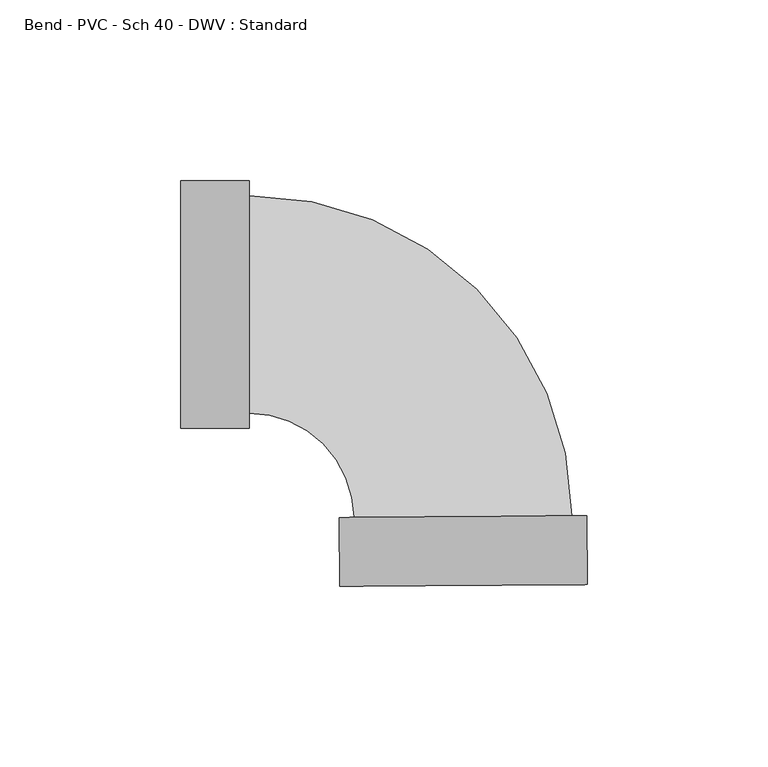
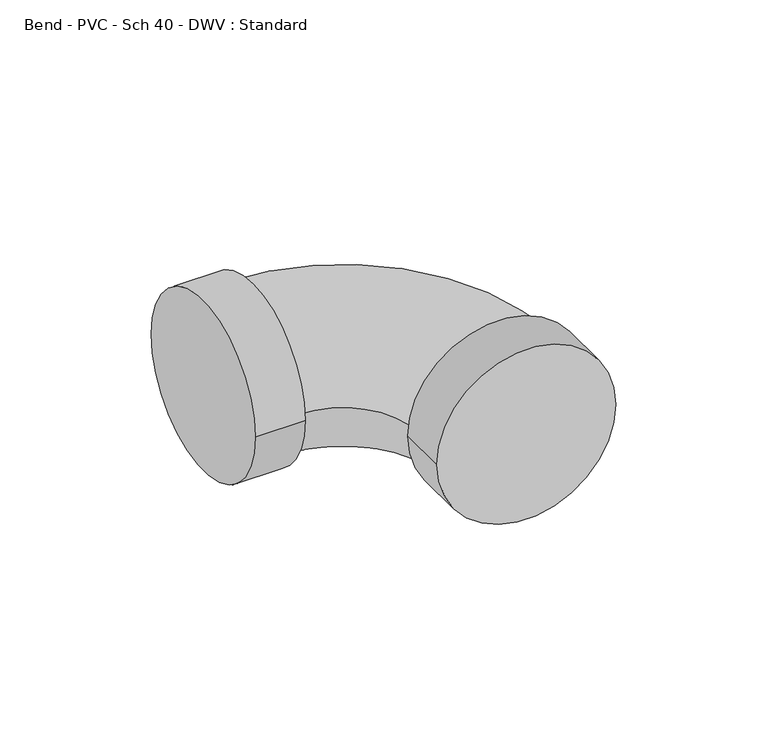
"""IFC4 building model written with IfcOpenShell, lengths in millimetres: pipe fitting geometry, Bend - PVC - Sch 40 - DWV : Standard."""

import ifcopenshell
import ifcopenshell.guid

model = None  # the IFC model being written
_history = None  # IfcOwnerHistory: only IFC2X3 demands one
_inside = {}  # id of a spatial element -> (the spatial element, [elements in it])
_under = {}  # id of a project, library or spatial element -> (it, [spatial elements below it])
_declared = {}  # id of a project -> (the project, [libraries it declares])
_typed = {}  # id of a type object -> (the type object, [elements of that type])
_made_of = {}  # id of a material, layer set ... -> (it, [elements and type objects made of it])


def new_model(schema):
    """Start an empty IFC model of exactly this schema.

    Asked for "IFC4X3", IfcOpenShell would pick the latest addendum, in which some entities
    have other attributes; the version numbers below select the first issue.
    IFC2X3 requires an IfcOwnerHistory on every rooted entity: one is made here for all.
    """
    global model, _history
    if schema == "IFC4X3":
        model = ifcopenshell.file(schema_version=(4, 3, 0, 0))
    else:
        model = ifcopenshell.file(schema=schema)
    _inside.clear()
    _under.clear()
    _declared.clear()
    _typed.clear()
    _made_of.clear()
    _history = None
    if model.schema == "IFC2X3":
        org = make("IfcOrganization", Name="unknown")
        user = make(
            "IfcPersonAndOrganization",
            ThePerson=make("IfcPerson", FamilyName="unknown"),
            TheOrganization=org,
        )
        app = make(
            "IfcApplication",
            ApplicationDeveloper=org,
            Version="unknown",
            ApplicationFullName="unknown",
            ApplicationIdentifier="unknown",
        )
        _history = make(
            "IfcOwnerHistory",
            OwningUser=user,
            OwningApplication=app,
            ChangeAction="ADDED",
            CreationDate=0,
        )
    return model


def make(cls, **values):
    """One entity of the class cls with the attributes given. An attribute that is None is left unset."""
    return model.create_entity(
        cls, **{name: value for name, value in values.items() if value is not None}
    )


def rooted(cls, **values):
    """An entity with a GlobalId (a new one), such as an element, a storey or a relation."""
    return make(cls, GlobalId=ifcopenshell.guid.new(), OwnerHistory=_history, **values)


def si_unit(unit_type, name, prefix=None):
    """IfcSIUnit, for example si_unit("LENGTHUNIT", "METRE", prefix="MILLI")."""
    return make("IfcSIUnit", UnitType=unit_type, Prefix=prefix, Name=name)


def assignment(units):
    """IfcUnitAssignment: the units of a project."""
    return None if units is None else make("IfcUnitAssignment", Units=units)


def point(xyz):
    """IfcCartesianPoint."""
    return None if xyz is None else make("IfcCartesianPoint", Coordinates=xyz)


def direction(xyz):
    """IfcDirection."""
    return None if xyz is None else make("IfcDirection", DirectionRatios=xyz)


def frame(location, z_axis=None, x_axis=None):
    """IfcAxis2Placement3D, a coordinate frame: its origin and axes. An axis left out is left unset."""
    return make(
        "IfcAxis2Placement3D",
        Location=point(location),
        Axis=direction(z_axis),
        RefDirection=direction(x_axis),
    )


def origin():
    """The frame at (0, 0, 0) with its axes left unset."""
    return frame((0.0, 0.0, 0.0))


def place(relative_to, where):
    """IfcLocalPlacement: puts the frame where relative to a parent placement (None: the world)."""
    return make(
        "IfcLocalPlacement", PlacementRelTo=relative_to, RelativePlacement=where
    )


def context(
    kind, dimensions, precision=None, world=None, true_north=None, identifier=None
):
    """IfcGeometricRepresentationContext, for example the 3D "Model" context."""
    return make(
        "IfcGeometricRepresentationContext",
        ContextIdentifier=identifier,
        ContextType=kind,
        CoordinateSpaceDimension=dimensions,
        Precision=precision,
        WorldCoordinateSystem=world,
        TrueNorth=true_north,
    )


def project(units=None, contexts=None):
    """IfcProject with its units and contexts."""
    return rooted(
        "IfcProject",
        Name="project",
        RepresentationContexts=contexts,
        UnitsInContext=assignment(units),
    )


def spatial(cls, under=None, at=None, **own):
    """A site, building, storey or space (cls), placed at a placement, below another one or the project."""
    s = rooted(cls, ObjectPlacement=at, **own)
    if under is not None:
        _under.setdefault(under.id(), (under, []))[1].append(s)
    return s


def circle_curve(where, radius):
    """IfcCircle in the frame where."""
    return make("IfcCircle", Position=where, Radius=radius)


def ellipse_curve(where, semi_axis1, semi_axis2):
    """IfcEllipse in the frame where."""
    return make(
        "IfcEllipse", Position=where, SemiAxis1=semi_axis1, SemiAxis2=semi_axis2
    )


def trimmed(basis, trim1, trim2, sense, master):
    """IfcTrimmedCurve: the piece of a basis curve between two trims."""
    return make(
        "IfcTrimmedCurve",
        BasisCurve=basis,
        Trim1=trim1,
        Trim2=trim2,
        SenseAgreement=sense,
        MasterRepresentation=master,
    )


def shape(context_of_items, identifier, shape_type, items):
    """IfcShapeRepresentation: the items that make up one representation, for example the "Body"."""
    return make(
        "IfcShapeRepresentation",
        ContextOfItems=context_of_items,
        RepresentationIdentifier=identifier,
        RepresentationType=shape_type,
        Items=items,
    )


def source(mapping_origin, context_of_items, identifier, shape_type, items):
    """IfcRepresentationMap: a shape defined once, which mapped items show again and again."""
    return make(
        "IfcRepresentationMap",
        MappingOrigin=mapping_origin,
        MappedRepresentation=shape(context_of_items, identifier, shape_type, items),
    )


def transform(
    local_origin,
    x_axis=None,
    y_axis=None,
    z_axis=None,
    scale=None,
    scale2=None,
    scale3=None,
    uniform=True,
):
    """IfcCartesianTransformationOperator3D, or its non-uniform kind. x_axis, y_axis, z_axis: its Axis1, 2, 3."""
    if uniform:
        return make(
            "IfcCartesianTransformationOperator3D",
            Axis1=direction(x_axis),
            Axis2=direction(y_axis),
            LocalOrigin=point(local_origin),
            Scale=scale,
            Axis3=direction(z_axis),
        )
    return make(
        "IfcCartesianTransformationOperator3DnonUniform",
        Axis1=direction(x_axis),
        Axis2=direction(y_axis),
        LocalOrigin=point(local_origin),
        Scale=scale,
        Axis3=direction(z_axis),
        Scale2=scale2,
        Scale3=scale3,
    )


def mapped(mapping_source, mapping_target):
    """IfcMappedItem: shows the shape of a source again, moved by a transform."""
    return make(
        "IfcMappedItem", MappingSource=mapping_source, MappingTarget=mapping_target
    )


def made_of(thing, what):
    """Note that an element or type object is made of a material, layer set ...; save() writes the relation."""
    if what is not None:
        _made_of.setdefault(what.id(), (what, []))[1].append(thing)
    return thing


def element(
    cls,
    number,
    at=None,
    inside=None,
    cuts=None,
    type_object=None,
    material=None,
    context=None,
    identifier="Body",
    shape_type=None,
    held_by="IfcProductDefinitionShape",
    body=None,
    shapes=None,
    **own,
):
    """One element of the class cls, such as IfcWall. Its Tag is "e" and its number.

    at: its placement. inside: the storey or other place that contains it. cuts: it is an
    opening in that element (IfcRelVoidsElement). A single representation is given by context,
    identifier, shape_type and body (its items); several are given by shapes. held_by: the class
    of the entity that holds the representations. save() writes the other relations.
    """
    e = rooted(cls, Tag="e%d" % number, ObjectPlacement=at, **own)
    if body is not None:
        shapes = [shape(context, identifier, shape_type, body)]
    if shapes is not None:
        e.Representation = make(held_by, Representations=shapes)
    if inside is not None:
        _inside.setdefault(inside.id(), (inside, []))[1].append(e)
    if cuts is not None:
        rooted(
            "IfcRelVoidsElement", RelatingBuildingElement=cuts, RelatedOpeningElement=e
        )
    if type_object is not None:
        _typed.setdefault(type_object.id(), (type_object, []))[1].append(e)
    return made_of(e, material)


def aggregate(whole, parts):
    """IfcRelAggregates: a whole, such as a stair, and the parts it consists of."""
    return rooted("IfcRelAggregates", RelatingObject=whole, RelatedObjects=parts)


def save(model, path):
    """Write the relations noted so far, then the file.

    IfcRelAggregates (storeys below a building ...), IfcRelContainedInSpatialStructure (elements
    in a storey), IfcRelDefinesByType, IfcRelAssociatesMaterial and IfcRelDeclares: one each for
    every whole, place, type object, material and project.
    """
    for whole, parts in _under.values():
        aggregate(whole, parts)
    for where, things in _inside.values():
        rooted(
            "IfcRelContainedInSpatialStructure",
            RelatedElements=things,
            RelatingStructure=where,
        )
    for kind, things in _typed.values():
        rooted("IfcRelDefinesByType", RelatedObjects=things, RelatingType=kind)
    for what, things in _made_of.values():
        rooted("IfcRelAssociatesMaterial", RelatedObjects=things, RelatingMaterial=what)
    for by, libraries in _declared.values():
        rooted("IfcRelDeclares", RelatingContext=by, RelatedDefinitions=libraries)
    model.write(path)


def plane_surface(at):
    """IfcPlane: the flat surface through the origin of the frame at, square to its z axis."""
    return make("IfcPlane", Position=at)


def cylinder_surface(at, radius):
    """IfcCylindricalSurface: all points at the distance radius from the z axis of the frame at."""
    return make("IfcCylindricalSurface", Position=at, Radius=radius)


def revolved_surface(curve, axis_point, axis_direction):
    """IfcSurfaceOfRevolution: the curve turned about the line through axis_point along axis_direction."""
    return make(
        "IfcSurfaceOfRevolution",
        SweptCurve=make("IfcArbitraryOpenProfileDef", ProfileType="CURVE", Curve=curve),
        AxisPosition=make("IfcAxis1Placement", Location=point(axis_point), Axis=direction(axis_direction)),
    )


def advanced_brep(points, edges, surfaces, faces):
    """IfcAdvancedBrep: a solid bounded by faces that lie on surfaces and meet in shared edges.

    An edge is (start, end): straight between two places in points (the first is 0);
    or (start, end, curve); or (start, end, curve, False) where it runs against its curve.
    A face is (place in surfaces, loops), or (place, loops, False) where it looks against
    its surface's normal. A loop lists edges by number (the first is 1), with a minus sign
    where the edge is run from its end to its start. The first loop is the outer one.
    """
    corners = [point(p) for p in points]
    vertices = [make("IfcVertexPoint", VertexGeometry=c) for c in corners]
    made = []
    for start, end, *more in edges:
        made.append(
            make(
                "IfcEdgeCurve",
                EdgeStart=vertices[start],
                EdgeEnd=vertices[end],
                EdgeGeometry=more[0] if more else make("IfcPolyline", Points=[corners[start], corners[end]]),
                SameSense=more[1] if len(more) > 1 else True,
            )
        )
    hull = []
    for where, loops, *sense in faces:
        bounds = []
        for j, loop in enumerate(loops):
            ring = [make("IfcOrientedEdge", EdgeElement=made[abs(k) - 1], Orientation=k > 0) for k in loop]
            bounds.append(
                make(
                    "IfcFaceOuterBound" if j == 0 else "IfcFaceBound",
                    Bound=make("IfcEdgeLoop", EdgeList=ring),
                    Orientation=True,
                )
            )
        hull.append(make("IfcAdvancedFace", Bounds=bounds, FaceSurface=surfaces[where], SameSense=sense[0] if sense else True))
    return make("IfcAdvancedBrep", Outer=make("IfcClosedShell", CfsFaces=hull))


def bend_pvc_sch_40_dwv_standard_a9546cf7(model_context):
    return source(origin(), model_context, "Body", "AdvancedBrep", [
        advanced_brep(
        [(-77.8002, 34.3154, 0.0), (-77.8002, -34.3154, 0.0), (-58.7502, 34.3154, 0.0), (-58.7502, -34.3154, 0.0), (-58.7502, 30.1625, 0.0), (-58.7502, -30.1625, 0.0), (-29.7295152, -58.970487, 0.0), (30.5938526, -58.5267339, 0.0), (34.7466403, -58.4961851, 0.0), (-33.8823028, -59.0010359, 0.0), (34.8867728, -77.5456696, 0.0), (-33.7421703, -78.0505204, 0.0)],
        [
            (0, 1, circle_curve(frame((-77.8002, 0.0, 0.0), z_axis=(-1.0, 0.0, 0.0), x_axis=(0.0, -1.0, 0.0)), 34.3154)),
            (1, 0, circle_curve(frame((-77.8002, 0.0, 0.0), z_axis=(-1.0, 0.0, 0.0), x_axis=(0.0, -1.0, 0.0)), 34.3154)),
            (2, 3, circle_curve(frame((-58.7502, 0.0, 0.0), z_axis=(1.0, 0.0, 0.0), x_axis=(0.0, -1.0, 0.0)), 34.3154)),
            (3, 2, circle_curve(frame((-58.7502, 0.0, 0.0), z_axis=(1.0, 0.0, 0.0), x_axis=(0.0, -1.0, 0.0)), 34.3154)),
            (4, 5, circle_curve(frame((-58.7502, 0.0, 0.0), z_axis=(-1.0, 0.0, 0.0), x_axis=(0.0, -1.0, 0.0)), 30.1625)),
            (5, 4, circle_curve(frame((-58.7502, 0.0, 0.0), z_axis=(-1.0, 0.0, 0.0), x_axis=(0.0, -1.0, 0.0)), 30.1625)),
            (1, 3),
            (2, 0),
            (6, 7, circle_curve(frame((0.4321687, -58.7486105, 0.0), z_axis=(-0.0073560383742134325, 0.9999729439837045, 0.0), x_axis=(-0.9999729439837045, -0.0073560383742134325, 0.0)), 30.1625)),
            (7, 4, circle_curve(frame((-58.7502, -59.18397, 0.0), z_axis=(0.0, 0.0, 1.0), x_axis=(0.0, 1.0, 0.0)), 89.34647)),
            (5, 6, circle_curve(frame((-58.7502, -59.18397, 0.0), z_axis=(0.0, 0.0, -1.0), x_axis=(0.0, 1.0, 0.0)), 29.02147)),
            (7, 6, circle_curve(frame((0.4321687, -58.7486105, 0.0), z_axis=(-0.0073560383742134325, 0.9999729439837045, 0.0), x_axis=(-0.9999729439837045, -0.0073560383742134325, 0.0)), 30.1625)),
            (8, 9, circle_curve(frame((0.4321687, -58.7486105, 0.0), z_axis=(-0.007356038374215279, 0.9999729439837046, 0.0), x_axis=(-0.9999729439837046, -0.007356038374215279, 0.0)), 34.3154)),
            (9, 8, circle_curve(frame((0.4321687, -58.7486105, 0.0), z_axis=(-0.007356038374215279, 0.9999729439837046, 0.0), x_axis=(-0.9999729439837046, -0.007356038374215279, 0.0)), 34.3154)),
            (10, 11, circle_curve(frame((0.5723013, -77.798095, 0.0), z_axis=(0.007356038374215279, -0.9999729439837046, 0.0), x_axis=(-0.9999729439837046, -0.007356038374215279, 0.0)), 34.3154)),
            (11, 10, circle_curve(frame((0.5723013, -77.798095, 0.0), z_axis=(0.007356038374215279, -0.9999729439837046, 0.0), x_axis=(-0.9999729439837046, -0.007356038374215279, 0.0)), 34.3154)),
            (9, 11),
            (10, 8),
        ],
        [
            plane_surface(frame((-77.8002, 0.0, 0.0), z_axis=(-1.0, 0.0, 0.0), x_axis=(0.0, 0.0, 1.0))),
            plane_surface(frame((-58.7502, 0.0, 0.0), z_axis=(1.0, 0.0, 0.0), x_axis=(0.0, 0.0, 1.0))),
            cylinder_surface(frame((-77.8002, 0.0, 0.0), z_axis=(-1.0, 0.0, 0.0), x_axis=(0.0, -1.0, 0.0)), 34.3154),
            revolved_surface(trimmed(ellipse_curve(frame((-58.7502, 0.0, 0.0), z_axis=(1.0, 0.0, 0.0), x_axis=(0.0, -1.0, 0.0)), 30.1625, 30.1625), [point((-58.7502, 30.1625, 0.0))], [point((-58.7502, -30.1625, 0.0))], True, "CARTESIAN"), (-58.7502, -59.18397, 0.0), (0.0, 0.0, 1.0)),
            revolved_surface(trimmed(ellipse_curve(frame((-58.7502, 0.0, 0.0), z_axis=(1.0, 0.0, 0.0), x_axis=(0.0, -1.0, 0.0)), 30.1625, 30.1625), [point((-58.7502, -30.1625, 0.0))], [point((-58.7502, 30.1625, 0.0))], True, "CARTESIAN"), (-58.7502, -59.18397, 0.0), (0.0, 0.0, 1.0)),
            plane_surface(frame((0.4321687, -58.7486105, 0.0), z_axis=(-0.007356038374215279, 0.9999729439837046, 0.0), x_axis=(0.0, 0.0, 1.0))),
            plane_surface(frame((0.5723013, -77.798095, 0.0), z_axis=(0.007356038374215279, -0.9999729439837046, 0.0), x_axis=(0.0, 0.0, 1.0))),
            cylinder_surface(frame((0.4321687, -58.7486105, 0.0), z_axis=(-0.007356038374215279, 0.9999729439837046, 0.0), x_axis=(-0.9999729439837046, -0.007356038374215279, 0.0)), 34.3154),
        ],
        [
            (0, [[1, 2]]),
            (1, [[3, 4], [5, 6]]),
            (2, [[7, -3, 8, -2]]),
            (2, [[-8, -4, -7, -1]]),
            (3, [[9, 10, -6, 11]]),
            (4, [[-5, -10, 12, -11]]),
            (5, [[13, 14], [-12, -9]]),
            (6, [[15, 16]]),
            (7, [[17, -15, 18, -14]]),
            (7, [[-18, -16, -17, -13]]),
        ],
    ),
    ])


if __name__ == "__main__":
    model = new_model("IFC4")
    model_context = context("Model", 3, world=origin())
    ifc_project = project(units=[si_unit("LENGTHUNIT", "METRE", prefix="MILLI")], contexts=[model_context])
    site = spatial("IfcSite", under=ifc_project)
    building = spatial("IfcBuilding", under=site)
    placement = place(None, origin())
    bend_pvc_sch_40_dwv_standard_shape = bend_pvc_sch_40_dwv_standard_a9546cf7(model_context)
    element("IfcPipeFitting", 1, ObjectType="Bend - PVC - Sch 40 - DWV : Standard", at=placement, inside=building, context=model_context, shape_type="MappedRepresentation", body=[
        mapped(bend_pvc_sch_40_dwv_standard_shape, transform((0.0, 0.0, 0.0), x_axis=(1.0, 0.0, 0.0), y_axis=(0.0, 1.0, 0.0), z_axis=(0.0, 0.0, 1.0))),
    ])
    save(model, "model.ifc")
